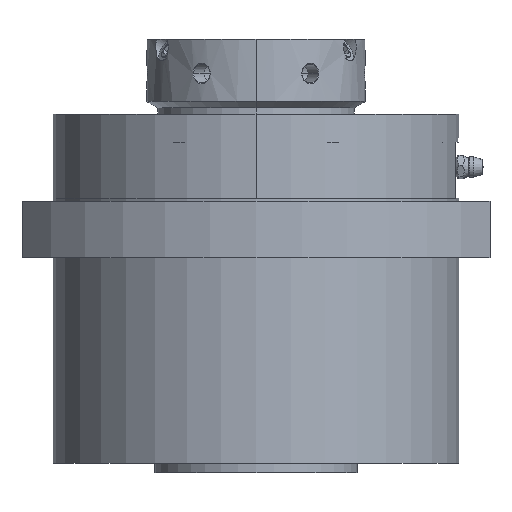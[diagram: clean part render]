
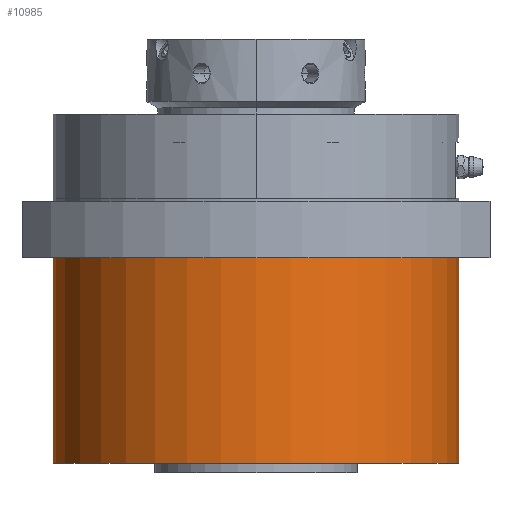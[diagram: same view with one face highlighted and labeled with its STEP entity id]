
A CAD part, front view. The second image highlights one B-rep face of the part: STEP entity #10985.
In plain terms, the highlighted cylindrical face has radius 65 mm (diameter 130 mm), a partial arc.
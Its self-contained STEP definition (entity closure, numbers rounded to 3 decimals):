
#904 = LINE ( 'NONE', #26658, #29078 ) ;
#1023 = CARTESIAN_POINT ( 'NONE',  ( 65., 0., 0. ) ) ;
#1618 = VERTEX_POINT ( 'NONE', #5976 ) ;
#1832 = DIRECTION ( 'NONE',  ( 0., 0., 1. ) ) ;
#2042 = CARTESIAN_POINT ( 'NONE',  ( 65., 0., 66. ) ) ;
#3736 = DIRECTION ( 'NONE',  ( 1., 0., 0. ) ) ;
#4346 = DIRECTION ( 'NONE',  ( 0., 0., -1. ) ) ;
#4400 = LINE ( 'NONE', #2042, #29784 ) ;
#5668 = VERTEX_POINT ( 'NONE', #7611 ) ;
#5976 = CARTESIAN_POINT ( 'NONE',  ( 65., 0., 66. ) ) ;
#6086 = CARTESIAN_POINT ( 'NONE',  ( 0., 0., 66. ) ) ;
#6175 = EDGE_LOOP ( 'NONE', ( #21605, #22269, #10437, #29049 ) ) ;
#6681 = EDGE_CURVE ( 'NONE', #30986, #1618, #17503, .T. ) ;
#7611 = CARTESIAN_POINT ( 'NONE',  ( -65., 0., 0. ) ) ;
#8506 = DIRECTION ( 'NONE',  ( 1., 0., 0. ) ) ;
#8886 = CYLINDRICAL_SURFACE ( 'NONE', #14026, 65. ) ;
#10437 = ORIENTED_EDGE ( 'NONE', *, *, #16234, .T. ) ;
#10985 = ADVANCED_FACE ( 'NONE', ( #23795 ), #8886, .T. ) ;
#11882 = CARTESIAN_POINT ( 'NONE',  ( 0., 0., 66. ) ) ;
#12499 = AXIS2_PLACEMENT_3D ( 'NONE', #6086, #1832, #3736 ) ;
#13209 = DIRECTION ( 'NONE',  ( 0., 0., 1. ) ) ;
#13337 = CARTESIAN_POINT ( 'NONE',  ( -65., 0., 66. ) ) ;
#14026 = AXIS2_PLACEMENT_3D ( 'NONE', #11882, #4346, #16085 ) ;
#16085 = DIRECTION ( 'NONE',  ( -1., 0., 0. ) ) ;
#16234 = EDGE_CURVE ( 'NONE', #30986, #5668, #904, .T. ) ;
#17503 = CIRCLE ( 'NONE', #12499, 65. ) ;
#18080 = CARTESIAN_POINT ( 'NONE',  ( 0., 0., 0. ) ) ;
#18362 = VERTEX_POINT ( 'NONE', #1023 ) ;
#21605 = ORIENTED_EDGE ( 'NONE', *, *, #31058, .F. ) ;
#22269 = ORIENTED_EDGE ( 'NONE', *, *, #6681, .F. ) ;
#23795 = FACE_OUTER_BOUND ( 'NONE', #6175, .T. ) ;
#24458 = DIRECTION ( 'NONE',  ( 0., 0., -1. ) ) ;
#26455 = EDGE_CURVE ( 'NONE', #5668, #18362, #27442, .T. ) ;
#26658 = CARTESIAN_POINT ( 'NONE',  ( -65., 0., 66. ) ) ;
#27442 = CIRCLE ( 'NONE', #27940, 65. ) ;
#27940 = AXIS2_PLACEMENT_3D ( 'NONE', #18080, #13209, #8506 ) ;
#29049 = ORIENTED_EDGE ( 'NONE', *, *, #26455, .T. ) ;
#29078 = VECTOR ( 'NONE', #24458, 1000. ) ;
#29784 = VECTOR ( 'NONE', #30781, 1000. ) ;
#30781 = DIRECTION ( 'NONE',  ( 0., 0., -1. ) ) ;
#30986 = VERTEX_POINT ( 'NONE', #13337 ) ;
#31058 = EDGE_CURVE ( 'NONE', #1618, #18362, #4400, .T. ) ;
